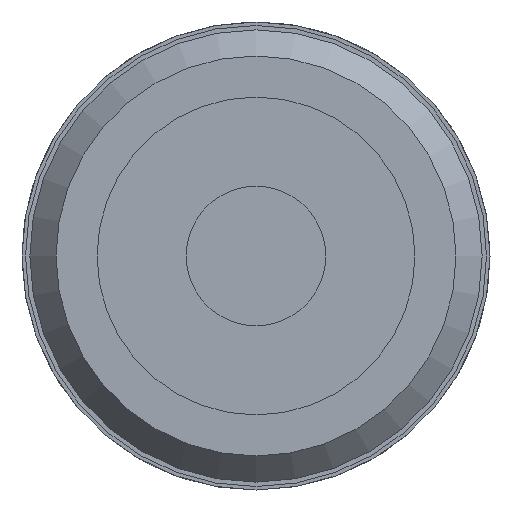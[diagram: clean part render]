
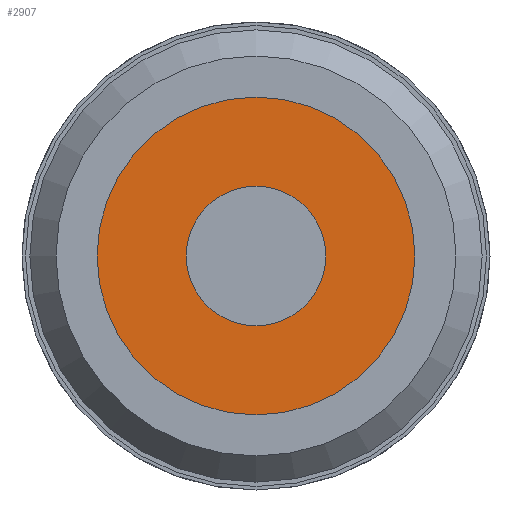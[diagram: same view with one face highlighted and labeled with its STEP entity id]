
A CAD part, left-side view. The second image highlights one B-rep face of the part: STEP entity #2907.
In plain terms, the highlighted planar face has unit normal (-1, 0, 0).
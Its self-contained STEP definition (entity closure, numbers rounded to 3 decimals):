
#40 = CARTESIAN_POINT ( 'NONE',  ( -60.2, 0., 0. ) ) ;
#291 = ORIENTED_EDGE ( 'NONE', *, *, #1299, .T. ) ;
#526 = DIRECTION ( 'NONE',  ( 0., 0., -1. ) ) ;
#606 = FACE_OUTER_BOUND ( 'NONE', #1651, .T. ) ;
#612 = CARTESIAN_POINT ( 'NONE',  ( -60.2, 0., -2. ) ) ;
#1038 = AXIS2_PLACEMENT_3D ( 'NONE', #3282, #1384, #526 ) ;
#1299 = EDGE_CURVE ( 'NONE', #3401, #3401, #2720, .T. ) ;
#1355 = EDGE_LOOP ( 'NONE', ( #291 ) ) ;
#1384 = DIRECTION ( 'NONE',  ( 1., 0., 0. ) ) ;
#1542 = DIRECTION ( 'NONE',  ( 0., 0., -1. ) ) ;
#1566 = CARTESIAN_POINT ( 'NONE',  ( -60.2, 0., 0. ) ) ;
#1603 = CIRCLE ( 'NONE', #1038, 4.55 ) ;
#1651 = EDGE_LOOP ( 'NONE', ( #2622 ) ) ;
#1750 = VERTEX_POINT ( 'NONE', #2522 ) ;
#1976 = DIRECTION ( 'NONE',  ( 1., 0., 0. ) ) ;
#2018 = AXIS2_PLACEMENT_3D ( 'NONE', #40, #1976, #2815 ) ;
#2112 = AXIS2_PLACEMENT_3D ( 'NONE', #1566, #2953, #1542 ) ;
#2522 = CARTESIAN_POINT ( 'NONE',  ( -60.2, 0., -4.55 ) ) ;
#2622 = ORIENTED_EDGE ( 'NONE', *, *, #2718, .F. ) ;
#2718 = EDGE_CURVE ( 'NONE', #1750, #1750, #1603, .T. ) ;
#2720 = CIRCLE ( 'NONE', #2018, 2. ) ;
#2815 = DIRECTION ( 'NONE',  ( 0., 0., -1. ) ) ;
#2907 = ADVANCED_FACE ( 'NONE', ( #2967, #606 ), #3427, .F. ) ;
#2953 = DIRECTION ( 'NONE',  ( 1., 0., 0. ) ) ;
#2967 = FACE_BOUND ( 'NONE', #1355, .T. ) ;
#3282 = CARTESIAN_POINT ( 'NONE',  ( -60.2, 0., 0. ) ) ;
#3401 = VERTEX_POINT ( 'NONE', #612 ) ;
#3427 = PLANE ( 'NONE',  #2112 ) ;
